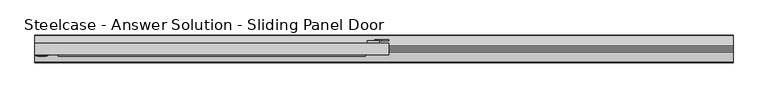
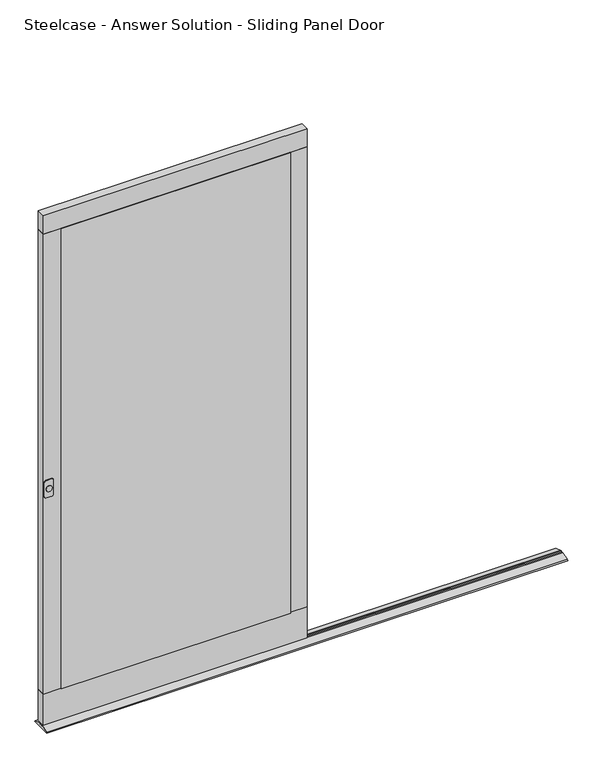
"""IFC4 building model written with IfcOpenShell, lengths in millimetres: furniture geometry."""

from ifc_helpers import new_model, si_unit, point, frame, frame_2d, origin, place, context, project, spatial, polyline, circle_curve, trimmed, segment, composite_curve, outline, extrude, source, transform, mapped, element, save


def steelcase_answer_solution_sliding_panel_door_1b46e80e(model_context):
    return source(origin(), model_context, "Body", "SweptSolid", [
        extrude(outline(composite_curve([segment(trimmed(circle_curve(frame_2d((927.0989028, -1835.4278402)), 10.7468772), [point((927.0989028, -1846.1747174))], [point((927.0989028, -1824.680963))], False, "CARTESIAN"), True, "CONTINUOUS"), segment(trimmed(circle_curve(frame_2d((927.0989028, -1835.4278402)), 10.7468772), [point((927.0989028, -1824.680963))], [point((927.0989028, -1846.1747174))], False, "CARTESIAN"), True, "CONTINUOUS")], self_intersect=False)), frame((0.0, -58.27776, 0.0), z_axis=(0.0, 1.0, 0.0), x_axis=(0.0, 0.0, 1.0)), (0.0, 0.0, 1.0), 2.159),
        extrude(outline(polyline([(-914.4, -22.2097635), (-947.42, -22.2097635), (-947.42, -15.6057635), (-914.4, -15.6057635), (-914.4, -22.2097635)])), frame((0.0, 0.0, 828.673924), z_axis=(0.0, 0.0, 1.0), x_axis=(1.0, 0.0, 0.0)), (0.0, 0.0, 1.0), 196.85),
        extrude(outline(composite_curve([segment(trimmed(circle_curve(frame_2d((899.7939028, -1845.34175)), 6.35), [point((899.7939028, -1851.69175))], [point((893.4439028, -1845.34175))], False, "CARTESIAN"), True, "CONTINUOUS"), segment(polyline([(893.4439028, -1845.34175), (893.4439028, -1825.02175)]), True, "CONTINUOUS"), segment(trimmed(circle_curve(frame_2d((899.7939028, -1825.02175)), 6.35), [point((893.4439028, -1825.02175))], [point((899.7939028, -1818.67175))], False, "CARTESIAN"), True, "CONTINUOUS"), segment(polyline([(899.7939028, -1818.67175), (954.4039028, -1818.67175)]), True, "CONTINUOUS"), segment(trimmed(circle_curve(frame_2d((954.4039028, -1825.02175)), 6.35), [point((954.4039028, -1818.67175))], [point((960.7539028, -1825.02175))], False, "CARTESIAN"), True, "CONTINUOUS"), segment(polyline([(960.7539028, -1825.02175), (960.7539028, -1845.34175)]), True, "CONTINUOUS"), segment(trimmed(circle_curve(frame_2d((954.4039028, -1845.34175)), 6.35), [point((960.7539028, -1845.34175))], [point((954.4039028, -1851.69175))], False, "CARTESIAN"), True, "CONTINUOUS"), segment(polyline([(954.4039028, -1851.69175), (899.7939028, -1851.69175)]), True, "CONTINUOUS")], self_intersect=False)), frame((0.0, -56.11876, 0.0), z_axis=(0.0, 1.0, 0.0), x_axis=(0.0, 0.0, 1.0)), (0.0, 0.0, 1.0), 2.1589722),
        extrude(outline(composite_curve([segment(polyline([(958.8489028, -927.2675713), (946.1489028, -927.2675713), (946.1489028, -908.2175713)]), True, "CONTINUOUS"), segment(trimmed(circle_curve(frame_2d((939.7989028, -908.2175713)), 6.35), [point((946.1489028, -908.2175713))], [point((939.7989028, -901.8675713))], True, "CARTESIAN"), True, "CONTINUOUS"), segment(polyline([(939.7989028, -901.8675713), (914.3989028, -901.8675713)]), True, "CONTINUOUS"), segment(trimmed(circle_curve(frame_2d((914.3989028, -908.2175713)), 6.35), [point((914.3989028, -901.8675713))], [point((908.0489028, -908.2175713))], True, "CARTESIAN"), True, "CONTINUOUS"), segment(polyline([(908.0489028, -908.2175713), (908.0489028, -927.2675713), (895.3489028, -927.2675713), (895.3489028, -908.2175713)]), True, "CONTINUOUS"), segment(trimmed(circle_curve(frame_2d((914.3989028, -908.2175713)), 19.05), [point((895.3489028, -908.2175713))], [point((914.3989028, -889.1675713))], False, "CARTESIAN"), True, "CONTINUOUS"), segment(polyline([(914.3989028, -889.1675713), (939.7989028, -889.1675713)]), True, "CONTINUOUS"), segment(trimmed(circle_curve(frame_2d((939.7989028, -908.2175713)), 19.05), [point((939.7989028, -889.1675713))], [point((958.8489028, -908.2175713))], False, "CARTESIAN"), True, "CONTINUOUS"), segment(polyline([(958.8489028, -908.2175713), (958.8489028, -927.2675713)]), True, "CONTINUOUS")], self_intersect=False)), frame((0.0, -15.6057635, 0.0), z_axis=(0.0, 1.0, 0.0), x_axis=(0.0, 0.0, 1.0)), (0.0, 0.0, 1.0), 2.032),
        extrude(outline(polyline([(-889.0, -53.9597878), (-1854.2, -53.9597878), (-1854.2, -22.2097635), (-889.0, -22.2097635), (-889.0, -53.9597878)])), frame((0.0, 0.0, 1915.1589729), z_axis=(0.0, 0.0, 1.0), x_axis=(1.0, 0.0, 0.0)), (0.0, 0.0, 1.0), 69.8499516),
        extrude(outline(polyline([(-1790.7000969, -53.9597878), (-1854.2, -53.9597878), (-1854.2, -22.2097635), (-1790.7000969, -22.2097635), (-1790.7000969, -53.9597878)])), frame((0.0, 0.0, 137.1589275), z_axis=(0.0, 0.0, 1.0), x_axis=(1.0, 0.0, 0.0)), (0.0, 0.0, 1.0), 1778.0000454),
        extrude(outline(polyline([(-889.0, -53.9597878), (-952.4999031, -53.9597878), (-952.4999031, -22.2097635), (-889.0, -22.2097635), (-889.0, -53.9597878)])), frame((0.0, 0.0, 137.1589275), z_axis=(0.0, 0.0, 1.0), x_axis=(1.0, 0.0, 0.0)), (0.0, 0.0, 1.0), 1778.0000454),
        extrude(outline(polyline([(-889.0, -53.9597878), (-1854.2, -53.9597878), (-1854.2, -22.2097635), (-889.0, -22.2097635), (-889.0, -53.9597878)])), frame((0.0, 0.0, 16.5089245), z_axis=(0.0, 0.0, 1.0), x_axis=(1.0, 0.0, 0.0)), (0.0, 0.0, 1.0), 120.650003),
        extrude(outline(polyline([(-952.4999031, -53.9597878), (-952.4999031, -57.7514894), (-1790.7000969, -57.7514894), (-1790.7000969, -53.9597878), (-952.4999031, -53.9597878)])), frame((0.0, 0.0, 137.1589275), z_axis=(0.0, 0.0, 1.0), x_axis=(1.0, 0.0, 0.0)), (0.0, 0.0, 1.0), 1778.0000454),
        extrude(outline(polyline([(-29.8388763, 12.2491055), (-1.9333122, 3.0138476), (0.0, 0.0), (-76.1694786, 0.0), (-74.2361664, 3.0138476), (-46.3306023, 12.2491055), (-46.3306023, 6.2879429), (-39.9806265, 6.2879429), (-39.9806265, 12.6379637), (-36.1889248, 12.6379637), (-36.1889248, 6.2879429), (-29.8388763, 6.2879429), (-29.8388763, 12.2491055)])), frame((-1854.2, 0.0, 0.0), z_axis=(1.0, 0.0, 0.0), x_axis=(0.0, 1.0, 0.0)), (0.0, 0.0, 1.0), 1905.0),
    ])


if __name__ == "__main__":
    model = new_model("IFC4")
    model_context = context("Model", 3, world=origin())
    ifc_project = project(units=[si_unit("LENGTHUNIT", "METRE", prefix="MILLI")], contexts=[model_context])
    site = spatial("IfcSite", under=ifc_project)
    building = spatial("IfcBuilding", under=site)
    placement = place(None, origin())
    steelcase_answer_solution_sliding_panel_door_shape = steelcase_answer_solution_sliding_panel_door_1b46e80e(model_context)
    element("IfcFurniture", 1, ObjectType="Steelcase - Answer Solution - Sliding Panel Door : 78\" x 36\" - Right Door Handle & Lock", at=placement, inside=building, context=model_context, shape_type="MappedRepresentation", body=[
        mapped(steelcase_answer_solution_sliding_panel_door_shape, transform((0.0, 0.0, 0.0), x_axis=(1.0, 0.0, 0.0), y_axis=(0.0, 1.0, 0.0), z_axis=(0.0, 0.0, 1.0))),
    ])
    save(model, "model.ifc")
